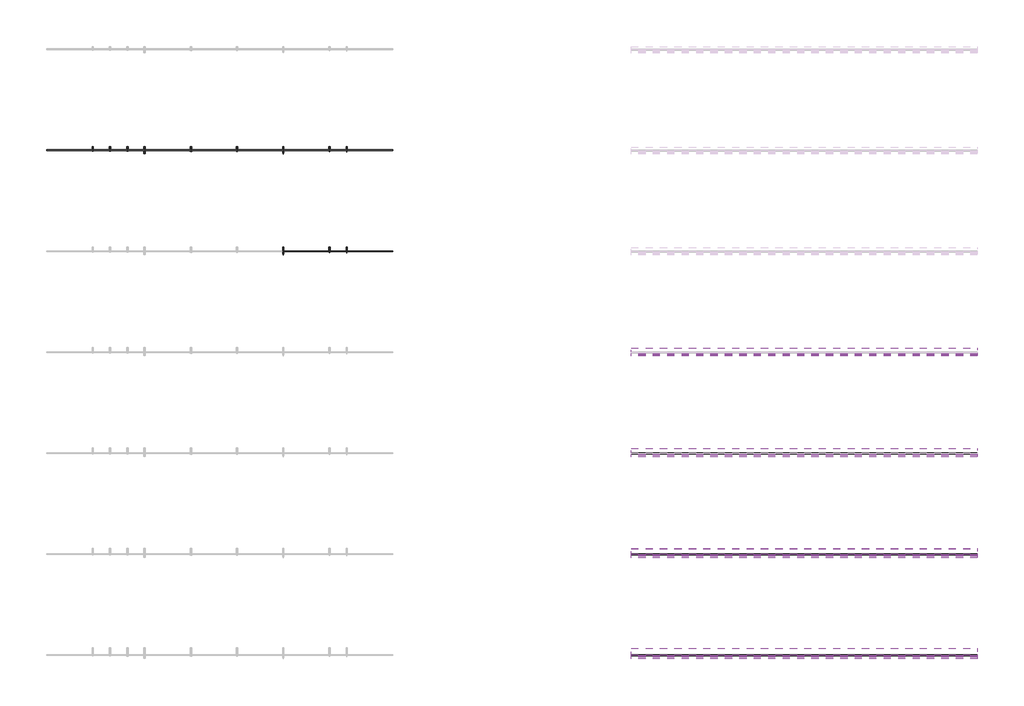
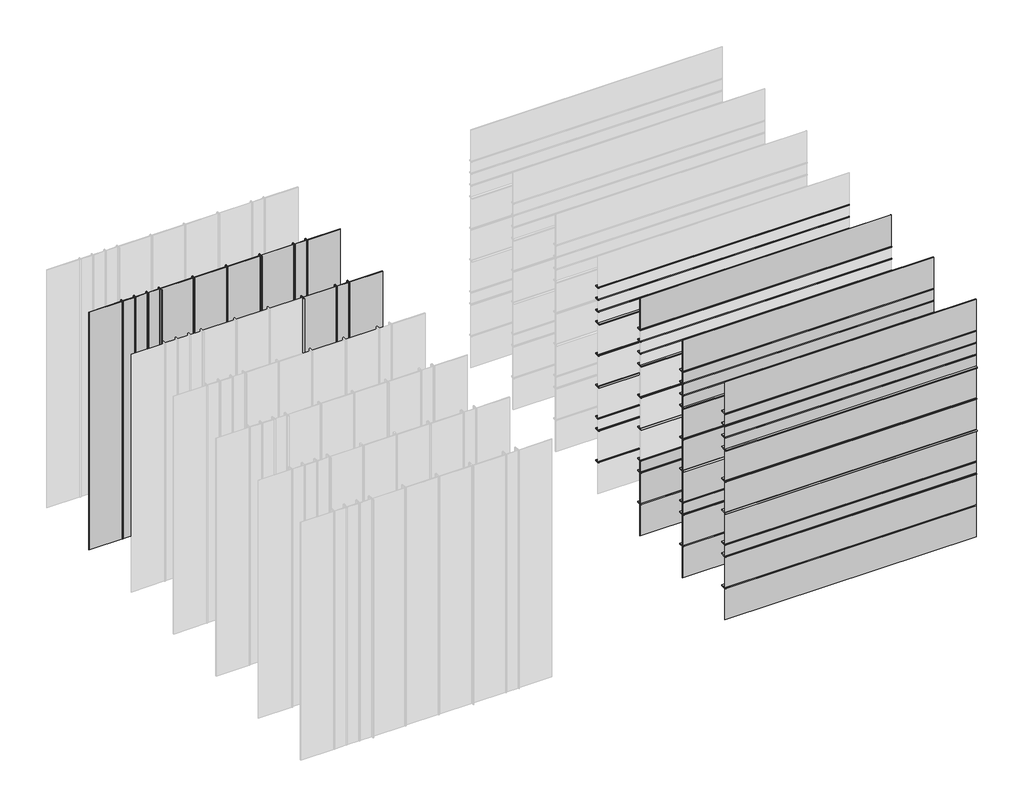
# One storey, part 2 of 3: 48 members, 37 plates.
"""IFC4 building model written with IfcOpenShell, lengths in millimetres."""

from ifc_helpers import new_model, si_unit, origin, place, context, project, spatial, transform, mapped, element, save
from components import rectangular_mullion_926e1737, rectangular_mullion_f53bd028, rectangular_mullion_f1bd58e3, rectangular_mullion_6b0ed9ac, rectangular_mullion_d9bfe010, rectangular_mullion_b46a96dc, rectangular_mullion_c69a8f91, rectangular_mullion_db2c93b4, rectangular_mullion_3407b3df, rectangular_mullion_5f3b20f2, rectangular_mullion_7f9c3200, rectangular_mullion_da6e7a92, rectangular_mullion_fb1c17d4, rectangular_mullion_f3bbb93a, rectangular_mullion_afd46f44, rectangular_mullion_7d98d56e, rectangular_mullion_0bbc5c10, rectangular_mullion_07f449a9, rectangular_mullion_7b71fafa, rectangular_mullion_cb093232, rectangular_mullion_c1439ce1, rectangular_mullion_d79525b9, rectangular_mullion_4c7a41ba, rectangular_mullion_d0dfcfd7, rectangular_mullion_525918dc, rectangular_mullion_4d24ccfb, rectangular_mullion_5bd67411, rectangular_mullion_9865d1ee, rectangular_mullion_bd02d50f, rectangular_mullion_65957ae0, rectangular_mullion_ba95baed, rectangular_mullion_c6a1e527, rectangular_mullion_80356d6c, rectangular_mullion_60d12d85, rectangular_mullion_952e1606, rectangular_mullion_2d673ba3, rectangular_mullion_68ce5020, rectangular_mullion_cac935a3, rectangular_mullion_5f609504, rectangular_mullion_1290e9c1, rectangular_mullion_a40413b4, rectangular_mullion_e9a00c45, rectangular_mullion_58120c59, rectangular_mullion_c298cf27, rectangular_mullion_2b170341, rectangular_mullion_6f4a11ca, rectangular_mullion_a785de51, rectangular_mullion_09148681, system_panel_glazed_d93a0c65, system_panel_glazed_eeb16b76, system_panel_glazed_27cd61de, system_panel_glazed_01db162c, system_panel_glazed_1a993f0c, system_panel_glazed_b61b2489, system_panel_glazed_47dfef42, system_panel_glazed_590bdfaf

model = new_model("IFC4")

# Units and contexts
model_context = context("Model", 3, world=origin())
ifc_project = project(units=[si_unit("LENGTHUNIT", "METRE", prefix="MILLI")], contexts=[model_context])

# Site, building, storey
site = spatial("IfcSite", under=ifc_project)
building = spatial("IfcBuilding", under=site)
storey = spatial("IfcBuildingStorey", under=building, Name="REY 01 - Overview Mullions", Elevation=0.0)

# Members
placement = place(None, origin())
rectangular_mullion_shape = rectangular_mullion_926e1737(model_context)
element("IfcMember", 1, ObjectType="Rectangular Mullion : Reynaers_CW-50_Transom-Transom_104.5mm_Facecap-02A", at=placement, inside=storey, context=model_context, shape_type="MappedRepresentation", body=[
    mapped(rectangular_mullion_shape, transform((-14129.591144, -1100.3540011, 0.0), x_axis=(-1.0, 0.0, 0.0), y_axis=(0.0, 1.0, 0.0), z_axis=(0.0, 0.0, -1.0))),
])
rectangular_mullion_2_shape = rectangular_mullion_f53bd028(model_context)
element("IfcMember", 2, ObjectType="Rectangular Mullion : Reynaers_CW-50_Transom-Transom_104.5mm_Facecap-02B", at=placement, inside=storey, context=model_context, shape_type="MappedRepresentation", body=[
    mapped(rectangular_mullion_2_shape, transform((-13529.591144, -1100.3540011, 0.0), x_axis=(-1.0, 0.0, 0.0), y_axis=(0.0, 1.0, 0.0), z_axis=(0.0, 0.0, -1.0))),
])
rectangular_mullion_3_shape = rectangular_mullion_f1bd58e3(model_context)
element("IfcMember", 3, ObjectType="Rectangular Mullion : Reynaers_CW-50_Transom-Transom_104.5mm_Facecap-02C", at=placement, inside=storey, context=model_context, shape_type="MappedRepresentation", body=[
    mapped(rectangular_mullion_3_shape, transform((-12929.591144, -1100.3540011, 0.0), x_axis=(-1.0, 0.0, 0.0), y_axis=(0.0, 1.0, 0.0), z_axis=(0.0, 0.0, -1.0))),
])
rectangular_mullion_4_shape = rectangular_mullion_6b0ed9ac(model_context)
element("IfcMember", 4, ObjectType="Rectangular Mullion : Reynaers_CW-50_Transom-Transom_104.5mm_Facecap-02D", at=placement, inside=storey, context=model_context, shape_type="MappedRepresentation", body=[
    mapped(rectangular_mullion_4_shape, transform((-12329.591144, -1100.3540011, 0.0), x_axis=(-1.0, 0.0, 0.0), y_axis=(0.0, 1.0, 0.0), z_axis=(0.0, 0.0, -1.0))),
])
rectangular_mullion_5_shape = rectangular_mullion_d9bfe010(model_context)
element("IfcMember", 5, ObjectType="Rectangular Mullion : Reynaers_CW-50_Transom-Transom_104.5mm_Facecap-03", at=placement, inside=storey, context=model_context, shape_type="MappedRepresentation", body=[
    mapped(rectangular_mullion_5_shape, transform((-10729.591144, -1100.3540011, 0.0), x_axis=(-1.0, 0.0, 0.0), y_axis=(0.0, 1.0, 0.0), z_axis=(0.0, 0.0, -1.0))),
])
rectangular_mullion_6_shape = rectangular_mullion_b46a96dc(model_context)
element("IfcMember", 6, ObjectType="Rectangular Mullion : Reynaers_CW-50_Transom-Transom_104.5mm_Facecap-05", at=placement, inside=storey, context=model_context, shape_type="MappedRepresentation", body=[
    mapped(rectangular_mullion_6_shape, transform((-7529.591144, -1100.3540011, 0.0), x_axis=(-1.0, 0.0, 0.0), y_axis=(0.0, 1.0, 0.0), z_axis=(0.0, 0.0, -1.0))),
])
rectangular_mullion_7_shape = rectangular_mullion_c69a8f91(model_context)
element("IfcMember", 7, ObjectType="Rectangular Mullion : Reynaers_CW-50_Transom-Transom_104.5mm_Facecap-06A", at=placement, inside=storey, context=model_context, shape_type="MappedRepresentation", body=[
    mapped(rectangular_mullion_7_shape, transform((-5929.591144, -1100.3540011, 0.0), x_axis=(-1.0, 0.0, 0.0), y_axis=(0.0, 1.0, 0.0), z_axis=(0.0, 0.0, -1.0))),
])
rectangular_mullion_8_shape = rectangular_mullion_db2c93b4(model_context)
element("IfcMember", 8, ObjectType="Rectangular Mullion : Reynaers_CW-50_Transom-Transom_104.5mm_Facecap-06B", at=placement, inside=storey, context=model_context, shape_type="MappedRepresentation", body=[
    mapped(rectangular_mullion_8_shape, transform((-5329.591144, -1100.3540011, 0.0), x_axis=(-1.0, 0.0, 0.0), y_axis=(0.0, 1.0, 0.0), z_axis=(0.0, 0.0, -1.0))),
])
rectangular_mullion_9_shape = rectangular_mullion_3407b3df(model_context)
element("IfcMember", 9, ObjectType="Rectangular Mullion : Reynaers_CW-50_Transom-Transom_Vertical_104.5mm_Facecap-04", at=placement, inside=storey, context=model_context, shape_type="MappedRepresentation", body=[
    mapped(rectangular_mullion_9_shape, transform((-9129.591144, -1100.3540011, 0.0), x_axis=(-1.0, 0.0, 0.0), y_axis=(0.0, 1.0, 0.0), z_axis=(0.0, 0.0, -1.0))),
])
rectangular_mullion_10_shape = rectangular_mullion_5f3b20f2(model_context)
element("IfcMember", 10, ObjectType="Rectangular Mullion : Reynaers_CW-50_Transom-Transom_125.5mm_Facecap-05", at=placement, inside=storey, context=model_context, shape_type="MappedRepresentation", body=[
    mapped(rectangular_mullion_10_shape, transform((-7529.591144, -4600.3540011, 0.0), x_axis=(-1.0, 0.0, 0.0), y_axis=(0.0, 1.0, 0.0), z_axis=(0.0, 0.0, -1.0))),
])
rectangular_mullion_11_shape = rectangular_mullion_7f9c3200(model_context)
element("IfcMember", 11, ObjectType="Rectangular Mullion : Reynaers_CW-50_Transom-Transom_125.5mm_Facecap-06A", at=placement, inside=storey, context=model_context, shape_type="MappedRepresentation", body=[
    mapped(rectangular_mullion_11_shape, transform((-5929.591144, -4600.3540011, 0.0), x_axis=(-1.0, 0.0, 0.0), y_axis=(0.0, 1.0, 0.0), z_axis=(0.0, 0.0, -1.0))),
])
rectangular_mullion_12_shape = rectangular_mullion_da6e7a92(model_context)
element("IfcMember", 12, ObjectType="Rectangular Mullion : Reynaers_CW-50_Transom-Transom_125.5mm_Facecap-06B", at=placement, inside=storey, context=model_context, shape_type="MappedRepresentation", body=[
    mapped(rectangular_mullion_12_shape, transform((-5329.591144, -4600.3540011, 0.0), x_axis=(-1.0, 0.0, 0.0), y_axis=(0.0, 1.0, 0.0), z_axis=(0.0, 0.0, -1.0))),
])
rectangular_mullion_13_shape = rectangular_mullion_fb1c17d4(model_context)
element("IfcMember", 13, ObjectType="Rectangular Mullion : Reynaers_CW-50_Transom-Transom_146.5mm_Facecap-02A", at=placement, inside=storey, context=model_context, shape_type="MappedRepresentation", body=[
    mapped(rectangular_mullion_13_shape, transform((4520.408856, -8112.8540011, 10400.0), x_axis=(0.0, 0.0, 1.0), y_axis=(0.0, 1.0, 0.0), z_axis=(-1.0, 0.0, 0.0))),
])
rectangular_mullion_14_shape = rectangular_mullion_f3bbb93a(model_context)
element("IfcMember", 14, ObjectType="Rectangular Mullion : Reynaers_CW-50_Transom-Transom_146.5mm_Facecap-02B", at=placement, inside=storey, context=model_context, shape_type="MappedRepresentation", body=[
    mapped(rectangular_mullion_14_shape, transform((4520.408856, -8112.8540011, 9800.0), x_axis=(0.0, 0.0, 1.0), y_axis=(0.0, 1.0, 0.0), z_axis=(-1.0, 0.0, 0.0))),
])
rectangular_mullion_15_shape = rectangular_mullion_afd46f44(model_context)
element("IfcMember", 15, ObjectType="Rectangular Mullion : Reynaers_CW-50_Transom-Transom_146.5mm_Facecap-02C", at=placement, inside=storey, context=model_context, shape_type="MappedRepresentation", body=[
    mapped(rectangular_mullion_15_shape, transform((4520.408856, -8112.8540011, 9200.0), x_axis=(0.0, 0.0, 1.0), y_axis=(0.0, 1.0, 0.0), z_axis=(-1.0, 0.0, 0.0))),
])
rectangular_mullion_16_shape = rectangular_mullion_7d98d56e(model_context)
element("IfcMember", 16, ObjectType="Rectangular Mullion : Reynaers_CW-50_Transom-Transom_146.5mm_Facecap-02D", at=placement, inside=storey, context=model_context, shape_type="MappedRepresentation", body=[
    mapped(rectangular_mullion_16_shape, transform((4520.408856, -8112.8540011, 8600.0), x_axis=(0.0, 0.0, 1.0), y_axis=(0.0, 1.0, 0.0), z_axis=(-1.0, 0.0, 0.0))),
])
rectangular_mullion_17_shape = rectangular_mullion_0bbc5c10(model_context)
element("IfcMember", 17, ObjectType="Rectangular Mullion : Reynaers_CW-50_Transom-Transom_146.5mm_Facecap-03", at=placement, inside=storey, context=model_context, shape_type="MappedRepresentation", body=[
    mapped(rectangular_mullion_17_shape, transform((4520.408856, -8112.8540011, 7000.0), x_axis=(0.0, 0.0, 1.0), y_axis=(0.0, 1.0, 0.0), z_axis=(-1.0, 0.0, 0.0))),
])
rectangular_mullion_18_shape = rectangular_mullion_07f449a9(model_context)
element("IfcMember", 18, ObjectType="Rectangular Mullion : Reynaers_CW-50_Transom-Transom_146.5mm_Facecap-05", at=placement, inside=storey, context=model_context, shape_type="MappedRepresentation", body=[
    mapped(rectangular_mullion_18_shape, transform((4520.408856, -8112.8540011, 5400.0), x_axis=(0.0, 0.0, 1.0), y_axis=(0.0, 1.0, 0.0), z_axis=(-1.0, 0.0, 0.0))),
])
rectangular_mullion_19_shape = rectangular_mullion_7b71fafa(model_context)
element("IfcMember", 19, ObjectType="Rectangular Mullion : Reynaers_CW-50_Transom-Transom_146.5mm_Facecap-06A", at=placement, inside=storey, context=model_context, shape_type="MappedRepresentation", body=[
    mapped(rectangular_mullion_19_shape, transform((4520.408856, -8112.8540011, 3800.0), x_axis=(0.0, 0.0, 1.0), y_axis=(0.0, 1.0, 0.0), z_axis=(-1.0, 0.0, 0.0))),
])
rectangular_mullion_20_shape = rectangular_mullion_cb093232(model_context)
element("IfcMember", 20, ObjectType="Rectangular Mullion : Reynaers_CW-50_Transom-Transom_146.5mm_Facecap-06B", at=placement, inside=storey, context=model_context, shape_type="MappedRepresentation", body=[
    mapped(rectangular_mullion_20_shape, transform((4520.408856, -8112.8540011, 3200.0), x_axis=(0.0, 0.0, 1.0), y_axis=(0.0, 1.0, 0.0), z_axis=(-1.0, 0.0, 0.0))),
])
rectangular_mullion_21_shape = rectangular_mullion_c1439ce1(model_context)
element("IfcMember", 21, ObjectType="Rectangular Mullion : Reynaers_CW-50_Transom-Transom_167.5mm_Facecap-02A", at=placement, inside=storey, context=model_context, shape_type="MappedRepresentation", body=[
    mapped(rectangular_mullion_21_shape, transform((4520.408856, -11612.8540011, 10400.0), x_axis=(0.0, 0.0, 1.0), y_axis=(0.0, 1.0, 0.0), z_axis=(-1.0, 0.0, 0.0))),
])
rectangular_mullion_22_shape = rectangular_mullion_d79525b9(model_context)
element("IfcMember", 22, ObjectType="Rectangular Mullion : Reynaers_CW-50_Transom-Transom_167.5mm_Facecap-02B", at=placement, inside=storey, context=model_context, shape_type="MappedRepresentation", body=[
    mapped(rectangular_mullion_22_shape, transform((4520.408856, -11612.8540011, 9800.0), x_axis=(0.0, 0.0, 1.0), y_axis=(0.0, 1.0, 0.0), z_axis=(-1.0, 0.0, 0.0))),
])
rectangular_mullion_23_shape = rectangular_mullion_4c7a41ba(model_context)
element("IfcMember", 23, ObjectType="Rectangular Mullion : Reynaers_CW-50_Transom-Transom_167.5mm_Facecap-02C", at=placement, inside=storey, context=model_context, shape_type="MappedRepresentation", body=[
    mapped(rectangular_mullion_23_shape, transform((4520.408856, -11612.8540011, 9200.0), x_axis=(0.0, 0.0, 1.0), y_axis=(0.0, 1.0, 0.0), z_axis=(-1.0, 0.0, 0.0))),
])
rectangular_mullion_24_shape = rectangular_mullion_d0dfcfd7(model_context)
element("IfcMember", 24, ObjectType="Rectangular Mullion : Reynaers_CW-50_Transom-Transom_167.5mm_Facecap-02D", at=placement, inside=storey, context=model_context, shape_type="MappedRepresentation", body=[
    mapped(rectangular_mullion_24_shape, transform((4520.408856, -11612.8540011, 8600.0), x_axis=(0.0, 0.0, 1.0), y_axis=(0.0, 1.0, 0.0), z_axis=(-1.0, 0.0, 0.0))),
])
rectangular_mullion_25_shape = rectangular_mullion_525918dc(model_context)
element("IfcMember", 25, ObjectType="Rectangular Mullion : Reynaers_CW-50_Transom-Transom_167.5mm_Facecap-03", at=placement, inside=storey, context=model_context, shape_type="MappedRepresentation", body=[
    mapped(rectangular_mullion_25_shape, transform((4520.408856, -11612.8540011, 7000.0), x_axis=(0.0, 0.0, 1.0), y_axis=(0.0, 1.0, 0.0), z_axis=(-1.0, 0.0, 0.0))),
])
rectangular_mullion_26_shape = rectangular_mullion_4d24ccfb(model_context)
element("IfcMember", 26, ObjectType="Rectangular Mullion : Reynaers_CW-50_Transom-Transom_167.5mm_Facecap-05", at=placement, inside=storey, context=model_context, shape_type="MappedRepresentation", body=[
    mapped(rectangular_mullion_26_shape, transform((4520.408856, -11612.8540011, 5400.0), x_axis=(0.0, 0.0, 1.0), y_axis=(0.0, 1.0, 0.0), z_axis=(-1.0, 0.0, 0.0))),
])
rectangular_mullion_27_shape = rectangular_mullion_5bd67411(model_context)
element("IfcMember", 27, ObjectType="Rectangular Mullion : Reynaers_CW-50_Transom-Transom_167.5mm_Facecap-06A", at=placement, inside=storey, context=model_context, shape_type="MappedRepresentation", body=[
    mapped(rectangular_mullion_27_shape, transform((4520.408856, -11612.8540011, 3800.0), x_axis=(0.0, 0.0, 1.0), y_axis=(0.0, 1.0, 0.0), z_axis=(-1.0, 0.0, 0.0))),
])
rectangular_mullion_28_shape = rectangular_mullion_9865d1ee(model_context)
element("IfcMember", 28, ObjectType="Rectangular Mullion : Reynaers_CW-50_Transom-Transom_167.5mm_Facecap-06B", at=placement, inside=storey, context=model_context, shape_type="MappedRepresentation", body=[
    mapped(rectangular_mullion_28_shape, transform((4520.408856, -11612.8540011, 3200.0), x_axis=(0.0, 0.0, 1.0), y_axis=(0.0, 1.0, 0.0), z_axis=(-1.0, 0.0, 0.0))),
])
rectangular_mullion_29_shape = rectangular_mullion_bd02d50f(model_context)
element("IfcMember", 29, ObjectType="Rectangular Mullion : Reynaers_CW-50_Transom-Transom_188.5mm_Facecap-02A", at=placement, inside=storey, context=model_context, shape_type="MappedRepresentation", body=[
    mapped(rectangular_mullion_29_shape, transform((4520.408856, -15112.8540011, 10400.0), x_axis=(0.0, 0.0, 1.0), y_axis=(0.0, 1.0, 0.0), z_axis=(-1.0, 0.0, 0.0))),
])
rectangular_mullion_30_shape = rectangular_mullion_65957ae0(model_context)
element("IfcMember", 30, ObjectType="Rectangular Mullion : Reynaers_CW-50_Transom-Transom_188.5mm_Facecap-02B", at=placement, inside=storey, context=model_context, shape_type="MappedRepresentation", body=[
    mapped(rectangular_mullion_30_shape, transform((4520.408856, -15112.8540011, 9800.0), x_axis=(0.0, 0.0, 1.0), y_axis=(0.0, 1.0, 0.0), z_axis=(-1.0, 0.0, 0.0))),
])
rectangular_mullion_31_shape = rectangular_mullion_ba95baed(model_context)
element("IfcMember", 31, ObjectType="Rectangular Mullion : Reynaers_CW-50_Transom-Transom_188.5mm_Facecap-02C", at=placement, inside=storey, context=model_context, shape_type="MappedRepresentation", body=[
    mapped(rectangular_mullion_31_shape, transform((4520.408856, -15112.8540011, 9200.0), x_axis=(0.0, 0.0, 1.0), y_axis=(0.0, 1.0, 0.0), z_axis=(-1.0, 0.0, 0.0))),
])
rectangular_mullion_32_shape = rectangular_mullion_c6a1e527(model_context)
element("IfcMember", 32, ObjectType="Rectangular Mullion : Reynaers_CW-50_Transom-Transom_188.5mm_Facecap-02D", at=placement, inside=storey, context=model_context, shape_type="MappedRepresentation", body=[
    mapped(rectangular_mullion_32_shape, transform((4520.408856, -15112.8540011, 8600.0), x_axis=(0.0, 0.0, 1.0), y_axis=(0.0, 1.0, 0.0), z_axis=(-1.0, 0.0, 0.0))),
])
rectangular_mullion_33_shape = rectangular_mullion_80356d6c(model_context)
element("IfcMember", 33, ObjectType="Rectangular Mullion : Reynaers_CW-50_Transom-Transom_188.5mm_Facecap-03", at=placement, inside=storey, context=model_context, shape_type="MappedRepresentation", body=[
    mapped(rectangular_mullion_33_shape, transform((4520.408856, -15112.8540011, 7000.0), x_axis=(0.0, 0.0, 1.0), y_axis=(0.0, 1.0, 0.0), z_axis=(-1.0, 0.0, 0.0))),
])
rectangular_mullion_34_shape = rectangular_mullion_60d12d85(model_context)
element("IfcMember", 34, ObjectType="Rectangular Mullion : Reynaers_CW-50_Transom-Transom_188.5mm_Facecap-05", at=placement, inside=storey, context=model_context, shape_type="MappedRepresentation", body=[
    mapped(rectangular_mullion_34_shape, transform((4520.408856, -15112.8540011, 5400.0), x_axis=(0.0, 0.0, 1.0), y_axis=(0.0, 1.0, 0.0), z_axis=(-1.0, 0.0, 0.0))),
])
rectangular_mullion_35_shape = rectangular_mullion_952e1606(model_context)
element("IfcMember", 35, ObjectType="Rectangular Mullion : Reynaers_CW-50_Transom-Transom_188.5mm_Facecap-06A", at=placement, inside=storey, context=model_context, shape_type="MappedRepresentation", body=[
    mapped(rectangular_mullion_35_shape, transform((4520.408856, -15112.8540011, 3800.0), x_axis=(0.0, 0.0, 1.0), y_axis=(0.0, 1.0, 0.0), z_axis=(-1.0, 0.0, 0.0))),
])
rectangular_mullion_36_shape = rectangular_mullion_2d673ba3(model_context)
element("IfcMember", 36, ObjectType="Rectangular Mullion : Reynaers_CW-50_Transom-Transom_188.5mm_Facecap-06B", at=placement, inside=storey, context=model_context, shape_type="MappedRepresentation", body=[
    mapped(rectangular_mullion_36_shape, transform((4520.408856, -15112.8540011, 3200.0), x_axis=(0.0, 0.0, 1.0), y_axis=(0.0, 1.0, 0.0), z_axis=(-1.0, 0.0, 0.0))),
])
rectangular_mullion_37_shape = rectangular_mullion_68ce5020(model_context)
element("IfcMember", 37, ObjectType="Rectangular Mullion : Reynaers_CW-50_Transom-Transom_230.5mm_Facecap-02A", at=placement, inside=storey, context=model_context, shape_type="MappedRepresentation", body=[
    mapped(rectangular_mullion_37_shape, transform((4520.408856, -18612.8540011, 10400.0), x_axis=(0.0, 0.0, 1.0), y_axis=(0.0, 1.0, 0.0), z_axis=(-1.0, 0.0, 0.0))),
])
rectangular_mullion_38_shape = rectangular_mullion_cac935a3(model_context)
element("IfcMember", 38, ObjectType="Rectangular Mullion : Reynaers_CW-50_Transom-Transom_230.5mm_Facecap-02B", at=placement, inside=storey, context=model_context, shape_type="MappedRepresentation", body=[
    mapped(rectangular_mullion_38_shape, transform((4520.408856, -18612.8540011, 9800.0), x_axis=(0.0, 0.0, 1.0), y_axis=(0.0, 1.0, 0.0), z_axis=(-1.0, 0.0, 0.0))),
])
rectangular_mullion_39_shape = rectangular_mullion_5f609504(model_context)
element("IfcMember", 39, ObjectType="Rectangular Mullion : Reynaers_CW-50_Transom-Transom_230.5mm_Facecap-02C", at=placement, inside=storey, context=model_context, shape_type="MappedRepresentation", body=[
    mapped(rectangular_mullion_39_shape, transform((4520.408856, -18612.8540011, 9200.0), x_axis=(0.0, 0.0, 1.0), y_axis=(0.0, 1.0, 0.0), z_axis=(-1.0, 0.0, 0.0))),
])
rectangular_mullion_40_shape = rectangular_mullion_1290e9c1(model_context)
element("IfcMember", 40, ObjectType="Rectangular Mullion : Reynaers_CW-50_Transom-Transom_230.5mm_Facecap-02D", at=placement, inside=storey, context=model_context, shape_type="MappedRepresentation", body=[
    mapped(rectangular_mullion_40_shape, transform((4520.408856, -18612.8540011, 8600.0), x_axis=(0.0, 0.0, 1.0), y_axis=(0.0, 1.0, 0.0), z_axis=(-1.0, 0.0, 0.0))),
])
rectangular_mullion_41_shape = rectangular_mullion_a40413b4(model_context)
element("IfcMember", 41, ObjectType="Rectangular Mullion : Reynaers_CW-50_Transom-Transom_230.5mm_Facecap-03", at=placement, inside=storey, context=model_context, shape_type="MappedRepresentation", body=[
    mapped(rectangular_mullion_41_shape, transform((4520.408856, -18612.8540011, 7000.0), x_axis=(0.0, 0.0, 1.0), y_axis=(0.0, 1.0, 0.0), z_axis=(-1.0, 0.0, 0.0))),
])
rectangular_mullion_42_shape = rectangular_mullion_e9a00c45(model_context)
element("IfcMember", 42, ObjectType="Rectangular Mullion : Reynaers_CW-50_Transom-Transom_230.5mm_Facecap-05", at=placement, inside=storey, context=model_context, shape_type="MappedRepresentation", body=[
    mapped(rectangular_mullion_42_shape, transform((4520.408856, -18612.8540011, 5400.0), x_axis=(0.0, 0.0, 1.0), y_axis=(0.0, 1.0, 0.0), z_axis=(-1.0, 0.0, 0.0))),
])
rectangular_mullion_43_shape = rectangular_mullion_58120c59(model_context)
element("IfcMember", 43, ObjectType="Rectangular Mullion : Reynaers_CW-50_Transom-Transom_230.5mm_Facecap-06A", at=placement, inside=storey, context=model_context, shape_type="MappedRepresentation", body=[
    mapped(rectangular_mullion_43_shape, transform((4520.408856, -18612.8540011, 3800.0), x_axis=(0.0, 0.0, 1.0), y_axis=(0.0, 1.0, 0.0), z_axis=(-1.0, 0.0, 0.0))),
])
rectangular_mullion_44_shape = rectangular_mullion_c298cf27(model_context)
element("IfcMember", 44, ObjectType="Rectangular Mullion : Reynaers_CW-50_Transom-Transom_230.5mm_Facecap-06B", at=placement, inside=storey, context=model_context, shape_type="MappedRepresentation", body=[
    mapped(rectangular_mullion_44_shape, transform((4520.408856, -18612.8540011, 3200.0), x_axis=(0.0, 0.0, 1.0), y_axis=(0.0, 1.0, 0.0), z_axis=(-1.0, 0.0, 0.0))),
])
rectangular_mullion_45_shape = rectangular_mullion_2b170341(model_context)
element("IfcMember", 45, ObjectType="Rectangular Mullion : Reynaers_CW-50_Transom-Transom_Horizontal_146.5mm_Facecap-07", at=placement, inside=storey, context=model_context, shape_type="MappedRepresentation", body=[
    mapped(rectangular_mullion_45_shape, transform((4520.408856, -8112.8540011, 1600.0), x_axis=(0.0, 0.0, 1.0), y_axis=(0.0, 1.0, 0.0), z_axis=(-1.0, 0.0, 0.0))),
])
rectangular_mullion_46_shape = rectangular_mullion_6f4a11ca(model_context)
element("IfcMember", 46, ObjectType="Rectangular Mullion : Reynaers_CW-50_Transom-Transom_Horizontal_167.5mm_Facecap-07", at=placement, inside=storey, context=model_context, shape_type="MappedRepresentation", body=[
    mapped(rectangular_mullion_46_shape, transform((4520.408856, -11612.8540011, 1600.0), x_axis=(0.0, 0.0, 1.0), y_axis=(0.0, 1.0, 0.0), z_axis=(-1.0, 0.0, 0.0))),
])
rectangular_mullion_47_shape = rectangular_mullion_a785de51(model_context)
element("IfcMember", 47, ObjectType="Rectangular Mullion : Reynaers_CW-50_Transom-Transom_Horizontal_188.5mm_Facecap-07", at=placement, inside=storey, context=model_context, shape_type="MappedRepresentation", body=[
    mapped(rectangular_mullion_47_shape, transform((4520.408856, -15112.8540011, 1600.0), x_axis=(0.0, 0.0, 1.0), y_axis=(0.0, 1.0, 0.0), z_axis=(-1.0, 0.0, 0.0))),
])
rectangular_mullion_48_shape = rectangular_mullion_09148681(model_context)
element("IfcMember", 48, ObjectType="Rectangular Mullion : Reynaers_CW-50_Transom-Transom_Horizontal_230.5mm_Facecap-07", at=placement, inside=storey, context=model_context, shape_type="MappedRepresentation", body=[
    mapped(rectangular_mullion_48_shape, transform((4520.408856, -18612.8540011, 1600.0), x_axis=(0.0, 0.0, 1.0), y_axis=(0.0, 1.0, 0.0), z_axis=(-1.0, 0.0, 0.0))),
])

# Plates
system_panel_glazed_shape = system_panel_glazed_d93a0c65(model_context)
element("IfcPlate", 49, ObjectType="System Panel : Glazed", at=placement, inside=storey, context=model_context, shape_type="MappedRepresentation", body=[
    mapped(system_panel_glazed_shape, transform((-4527.140941, -1100.3540011, 0.0), x_axis=(-1.0, 0.0, 0.0), y_axis=(0.0, -1.0, 0.0), z_axis=(0.0, 0.0, 1.0))),
])
element("IfcPlate", 50, ObjectType="System Panel : Glazed", at=placement, inside=storey, context=model_context, shape_type="MappedRepresentation", body=[
    mapped(system_panel_glazed_shape, transform((-4527.140941, -4600.3540011, 0.0), x_axis=(-1.0, 0.0, 0.0), y_axis=(0.0, -1.0, 0.0), z_axis=(0.0, 0.0, 1.0))),
])
system_panel_glazed_2_shape = system_panel_glazed_eeb16b76(model_context)
element("IfcPlate", 51, ObjectType="System Panel : Glazed", at=placement, inside=storey, context=model_context, shape_type="MappedRepresentation", body=[
    mapped(system_panel_glazed_2_shape, transform((-14932.240941, -1100.3540011, 0.0), x_axis=(-1.0, 0.0, 0.0), y_axis=(0.0, -1.0, 0.0), z_axis=(0.0, 0.0, 1.0))),
])
system_panel_glazed_3_shape = system_panel_glazed_27cd61de(model_context)
element("IfcPlate", 52, ObjectType="System Panel : Glazed", at=placement, inside=storey, context=model_context, shape_type="MappedRepresentation", body=[
    mapped(system_panel_glazed_3_shape, transform((-5629.7907381, -1100.3540011, 0.0), x_axis=(-1.0, 0.0, 0.0), y_axis=(0.0, -1.0, 0.0), z_axis=(0.0, 0.0, 1.0))),
])
element("IfcPlate", 53, ObjectType="System Panel : Glazed", at=placement, inside=storey, context=model_context, shape_type="MappedRepresentation", body=[
    mapped(system_panel_glazed_3_shape, transform((-13829.7907381, -1100.3540011, 0.0), x_axis=(-1.0, 0.0, 0.0), y_axis=(0.0, -1.0, 0.0), z_axis=(0.0, 0.0, 1.0))),
])
element("IfcPlate", 54, ObjectType="System Panel : Glazed", at=placement, inside=storey, context=model_context, shape_type="MappedRepresentation", body=[
    mapped(system_panel_glazed_3_shape, transform((-13229.7907381, -1100.3540011, 0.0), x_axis=(-1.0, 0.0, 0.0), y_axis=(0.0, -1.0, 0.0), z_axis=(0.0, 0.0, 1.0))),
])
element("IfcPlate", 55, ObjectType="System Panel : Glazed", at=placement, inside=storey, context=model_context, shape_type="MappedRepresentation", body=[
    mapped(system_panel_glazed_3_shape, transform((-12629.7907381, -1100.3540011, 0.0), x_axis=(-1.0, 0.0, 0.0), y_axis=(0.0, -1.0, 0.0), z_axis=(0.0, 0.0, 1.0))),
])
element("IfcPlate", 56, ObjectType="System Panel : Glazed", at=placement, inside=storey, context=model_context, shape_type="MappedRepresentation", body=[
    mapped(system_panel_glazed_3_shape, transform((-5629.7907381, -4600.3540011, 0.0), x_axis=(-1.0, 0.0, 0.0), y_axis=(0.0, -1.0, 0.0), z_axis=(0.0, 0.0, 1.0))),
])
system_panel_glazed_4_shape = system_panel_glazed_01db162c(model_context)
element("IfcPlate", 57, ObjectType="System Panel : Glazed", at=placement, inside=storey, context=model_context, shape_type="MappedRepresentation", body=[
    mapped(system_panel_glazed_4_shape, transform((-6729.7907381, -1100.3540011, 0.0), x_axis=(-1.0, 0.0, 0.0), y_axis=(0.0, -1.0, 0.0), z_axis=(0.0, 0.0, 1.0))),
])
element("IfcPlate", 58, ObjectType="System Panel : Glazed", at=placement, inside=storey, context=model_context, shape_type="MappedRepresentation", body=[
    mapped(system_panel_glazed_4_shape, transform((-8329.7907381, -1100.3540011, 0.0), x_axis=(-1.0, 0.0, 0.0), y_axis=(0.0, -1.0, 0.0), z_axis=(0.0, 0.0, 1.0))),
])
element("IfcPlate", 59, ObjectType="System Panel : Glazed", at=placement, inside=storey, context=model_context, shape_type="MappedRepresentation", body=[
    mapped(system_panel_glazed_4_shape, transform((-9929.7907381, -1100.3540011, 0.0), x_axis=(-1.0, 0.0, 0.0), y_axis=(0.0, -1.0, 0.0), z_axis=(0.0, 0.0, 1.0))),
])
element("IfcPlate", 60, ObjectType="System Panel : Glazed", at=placement, inside=storey, context=model_context, shape_type="MappedRepresentation", body=[
    mapped(system_panel_glazed_4_shape, transform((-11529.7907381, -1100.3540011, 0.0), x_axis=(-1.0, 0.0, 0.0), y_axis=(0.0, -1.0, 0.0), z_axis=(0.0, 0.0, 1.0))),
])
element("IfcPlate", 61, ObjectType="System Panel : Glazed", at=placement, inside=storey, context=model_context, shape_type="MappedRepresentation", body=[
    mapped(system_panel_glazed_4_shape, transform((-6729.7907381, -4600.3540011, 0.0), x_axis=(-1.0, 0.0, 0.0), y_axis=(0.0, -1.0, 0.0), z_axis=(0.0, 0.0, 1.0))),
])
system_panel_glazed_5_shape = system_panel_glazed_1a993f0c(model_context)
element("IfcPlate", 62, ObjectType="System Panel : Glazed", at=placement, inside=storey, context=model_context, shape_type="MappedRepresentation", body=[
    mapped(system_panel_glazed_5_shape, transform((10520.408856, -11612.8540011, 10405.2995941), x_axis=(-1.0, 0.0, 0.0), y_axis=(0.0, -1.0, 0.0), z_axis=(0.0, 0.0, 1.0))),
])
element("IfcPlate", 63, ObjectType="System Panel : Glazed", at=placement, inside=storey, context=model_context, shape_type="MappedRepresentation", body=[
    mapped(system_panel_glazed_5_shape, transform((10520.408856, -15112.8540011, 10405.2995941), x_axis=(-1.0, 0.0, 0.0), y_axis=(0.0, -1.0, 0.0), z_axis=(0.0, 0.0, 1.0))),
])
element("IfcPlate", 64, ObjectType="System Panel : Glazed", at=placement, inside=storey, context=model_context, shape_type="MappedRepresentation", body=[
    mapped(system_panel_glazed_5_shape, transform((10520.408856, -18612.8540011, 10405.2995941), x_axis=(-1.0, 0.0, 0.0), y_axis=(0.0, -1.0, 0.0), z_axis=(0.0, 0.0, 1.0))),
])
system_panel_glazed_6_shape = system_panel_glazed_b61b2489(model_context)
element("IfcPlate", 65, ObjectType="System Panel : Glazed", at=placement, inside=storey, context=model_context, shape_type="MappedRepresentation", body=[
    mapped(system_panel_glazed_6_shape, transform((10520.408856, -11612.8540011, 3205.2995941), x_axis=(-1.0, 0.0, 0.0), y_axis=(0.0, -1.0, 0.0), z_axis=(0.0, 0.0, 1.0))),
])
element("IfcPlate", 66, ObjectType="System Panel : Glazed", at=placement, inside=storey, context=model_context, shape_type="MappedRepresentation", body=[
    mapped(system_panel_glazed_6_shape, transform((10520.408856, -15112.8540011, 3205.2995941), x_axis=(-1.0, 0.0, 0.0), y_axis=(0.0, -1.0, 0.0), z_axis=(0.0, 0.0, 1.0))),
])
element("IfcPlate", 67, ObjectType="System Panel : Glazed", at=placement, inside=storey, context=model_context, shape_type="MappedRepresentation", body=[
    mapped(system_panel_glazed_6_shape, transform((10520.408856, -15112.8540011, 8605.2995941), x_axis=(-1.0, 0.0, 0.0), y_axis=(0.0, -1.0, 0.0), z_axis=(0.0, 0.0, 1.0))),
])
element("IfcPlate", 68, ObjectType="System Panel : Glazed", at=placement, inside=storey, context=model_context, shape_type="MappedRepresentation", body=[
    mapped(system_panel_glazed_6_shape, transform((10520.408856, -15112.8540011, 9205.2995941), x_axis=(-1.0, 0.0, 0.0), y_axis=(0.0, -1.0, 0.0), z_axis=(0.0, 0.0, 1.0))),
])
element("IfcPlate", 69, ObjectType="System Panel : Glazed", at=placement, inside=storey, context=model_context, shape_type="MappedRepresentation", body=[
    mapped(system_panel_glazed_6_shape, transform((10520.408856, -15112.8540011, 9805.2995941), x_axis=(-1.0, 0.0, 0.0), y_axis=(0.0, -1.0, 0.0), z_axis=(0.0, 0.0, 1.0))),
])
element("IfcPlate", 70, ObjectType="System Panel : Glazed", at=placement, inside=storey, context=model_context, shape_type="MappedRepresentation", body=[
    mapped(system_panel_glazed_6_shape, transform((10520.408856, -18612.8540011, 3205.2995941), x_axis=(-1.0, 0.0, 0.0), y_axis=(0.0, -1.0, 0.0), z_axis=(0.0, 0.0, 1.0))),
])
element("IfcPlate", 71, ObjectType="System Panel : Glazed", at=placement, inside=storey, context=model_context, shape_type="MappedRepresentation", body=[
    mapped(system_panel_glazed_6_shape, transform((10520.408856, -18612.8540011, 8605.2995941), x_axis=(-1.0, 0.0, 0.0), y_axis=(0.0, -1.0, 0.0), z_axis=(0.0, 0.0, 1.0))),
])
element("IfcPlate", 72, ObjectType="System Panel : Glazed", at=placement, inside=storey, context=model_context, shape_type="MappedRepresentation", body=[
    mapped(system_panel_glazed_6_shape, transform((10520.408856, -18612.8540011, 9205.2995941), x_axis=(-1.0, 0.0, 0.0), y_axis=(0.0, -1.0, 0.0), z_axis=(0.0, 0.0, 1.0))),
])
element("IfcPlate", 73, ObjectType="System Panel : Glazed", at=placement, inside=storey, context=model_context, shape_type="MappedRepresentation", body=[
    mapped(system_panel_glazed_6_shape, transform((10520.408856, -18612.8540011, 9805.2995941), x_axis=(-1.0, 0.0, 0.0), y_axis=(0.0, -1.0, 0.0), z_axis=(0.0, 0.0, 1.0))),
])
system_panel_glazed_7_shape = system_panel_glazed_47dfef42(model_context)
element("IfcPlate", 74, ObjectType="System Panel : Glazed", at=placement, inside=storey, context=model_context, shape_type="MappedRepresentation", body=[
    mapped(system_panel_glazed_7_shape, transform((10520.408856, -11612.8540011, 1605.2995941), x_axis=(-1.0, 0.0, 0.0), y_axis=(0.0, -1.0, 0.0), z_axis=(0.0, 0.0, 1.0))),
])
element("IfcPlate", 75, ObjectType="System Panel : Glazed", at=placement, inside=storey, context=model_context, shape_type="MappedRepresentation", body=[
    mapped(system_panel_glazed_7_shape, transform((10520.408856, -15112.8540011, 1605.2995941), x_axis=(-1.0, 0.0, 0.0), y_axis=(0.0, -1.0, 0.0), z_axis=(0.0, 0.0, 1.0))),
])
element("IfcPlate", 76, ObjectType="System Panel : Glazed", at=placement, inside=storey, context=model_context, shape_type="MappedRepresentation", body=[
    mapped(system_panel_glazed_7_shape, transform((10520.408856, -15112.8540011, 3805.2995941), x_axis=(-1.0, 0.0, 0.0), y_axis=(0.0, -1.0, 0.0), z_axis=(0.0, 0.0, 1.0))),
])
element("IfcPlate", 77, ObjectType="System Panel : Glazed", at=placement, inside=storey, context=model_context, shape_type="MappedRepresentation", body=[
    mapped(system_panel_glazed_7_shape, transform((10520.408856, -15112.8540011, 7005.2995941), x_axis=(-1.0, 0.0, 0.0), y_axis=(0.0, -1.0, 0.0), z_axis=(0.0, 0.0, 1.0))),
])
element("IfcPlate", 78, ObjectType="System Panel : Glazed", at=placement, inside=storey, context=model_context, shape_type="MappedRepresentation", body=[
    mapped(system_panel_glazed_7_shape, transform((10520.408856, -15112.8540011, 5405.2995941), x_axis=(-1.0, 0.0, 0.0), y_axis=(0.0, -1.0, 0.0), z_axis=(0.0, 0.0, 1.0))),
])
element("IfcPlate", 79, ObjectType="System Panel : Glazed", at=placement, inside=storey, context=model_context, shape_type="MappedRepresentation", body=[
    mapped(system_panel_glazed_7_shape, transform((10520.408856, -18612.8540011, 1605.2995941), x_axis=(-1.0, 0.0, 0.0), y_axis=(0.0, -1.0, 0.0), z_axis=(0.0, 0.0, 1.0))),
])
element("IfcPlate", 80, ObjectType="System Panel : Glazed", at=placement, inside=storey, context=model_context, shape_type="MappedRepresentation", body=[
    mapped(system_panel_glazed_7_shape, transform((10520.408856, -18612.8540011, 3805.2995941), x_axis=(-1.0, 0.0, 0.0), y_axis=(0.0, -1.0, 0.0), z_axis=(0.0, 0.0, 1.0))),
])
element("IfcPlate", 81, ObjectType="System Panel : Glazed", at=placement, inside=storey, context=model_context, shape_type="MappedRepresentation", body=[
    mapped(system_panel_glazed_7_shape, transform((10520.408856, -18612.8540011, 7005.2995941), x_axis=(-1.0, 0.0, 0.0), y_axis=(0.0, -1.0, 0.0), z_axis=(0.0, 0.0, 1.0))),
])
element("IfcPlate", 82, ObjectType="System Panel : Glazed", at=placement, inside=storey, context=model_context, shape_type="MappedRepresentation", body=[
    mapped(system_panel_glazed_7_shape, transform((10520.408856, -18612.8540011, 5405.2995941), x_axis=(-1.0, 0.0, 0.0), y_axis=(0.0, -1.0, 0.0), z_axis=(0.0, 0.0, 1.0))),
])
system_panel_glazed_8_shape = system_panel_glazed_590bdfaf(model_context)
element("IfcPlate", 83, ObjectType="System Panel : Glazed", at=placement, inside=storey, context=model_context, shape_type="MappedRepresentation", body=[
    mapped(system_panel_glazed_8_shape, transform((10520.408856, -11612.8540011, 0.0), x_axis=(-1.0, 0.0, 0.0), y_axis=(0.0, -1.0, 0.0), z_axis=(0.0, 0.0, 1.0))),
])
element("IfcPlate", 84, ObjectType="System Panel : Glazed", at=placement, inside=storey, context=model_context, shape_type="MappedRepresentation", body=[
    mapped(system_panel_glazed_8_shape, transform((10520.408856, -15112.8540011, 0.0), x_axis=(-1.0, 0.0, 0.0), y_axis=(0.0, -1.0, 0.0), z_axis=(0.0, 0.0, 1.0))),
])
element("IfcPlate", 85, ObjectType="System Panel : Glazed", at=placement, inside=storey, context=model_context, shape_type="MappedRepresentation", body=[
    mapped(system_panel_glazed_8_shape, transform((10520.408856, -18612.8540011, 0.0), x_axis=(-1.0, 0.0, 0.0), y_axis=(0.0, -1.0, 0.0), z_axis=(0.0, 0.0, 1.0))),
])

save(model, "model.ifc")
